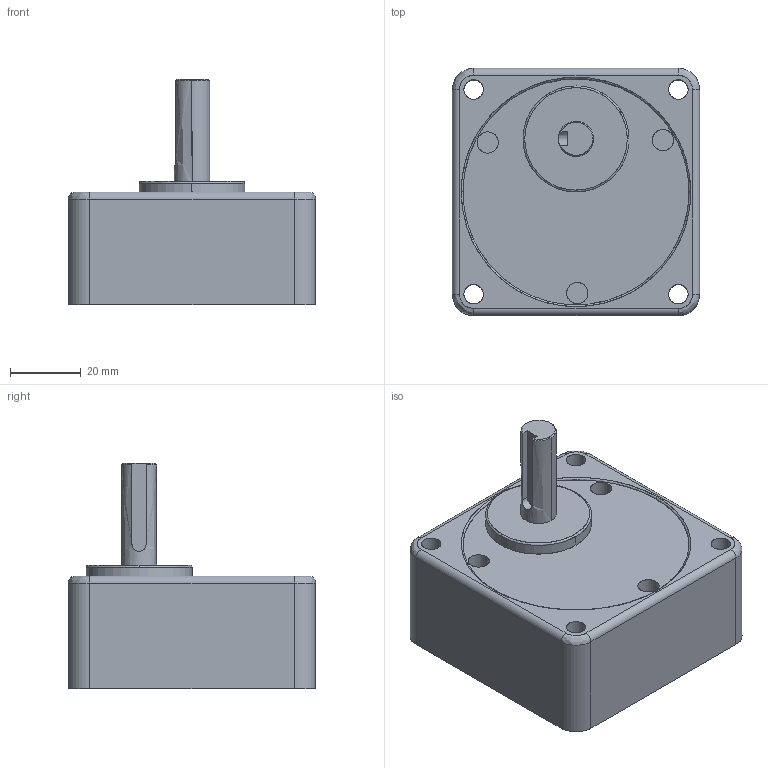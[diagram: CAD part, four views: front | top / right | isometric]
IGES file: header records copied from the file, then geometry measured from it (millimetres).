
Start section: SolidWorks IGES file using analytic representation for surfaces
Global section: file name: C:\Documents and Settings\user\ｹﾙﾅﾁ ﾈｭｸ饅(12-3) 7GBK｡滷MH(3~18).IGS,1; native system: 5HSolidWorks 2007; preprocessor: SolidWorks 2007; author: user; date: 150825.152529; units: millimetre
Bounding box: 70 x 70 x 64 mm (x, y, z)
Surface area: 23564.8 mm2 (no closed solid volume)
Topology: 0 solids, 0 shells, 59 faces, 1268 edges, 1268 vertices
Faces by surface type: revolution 34, bspline 25
